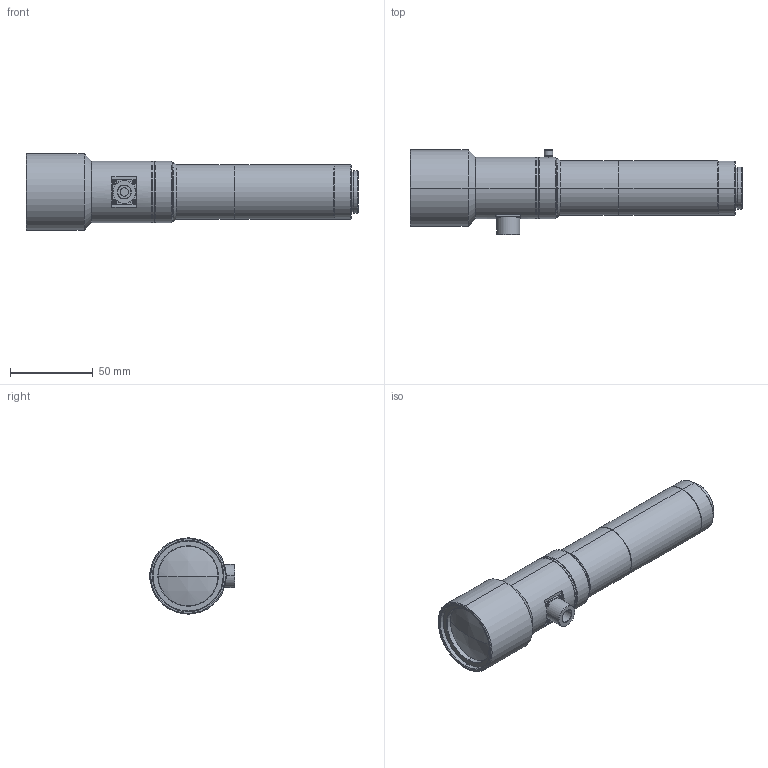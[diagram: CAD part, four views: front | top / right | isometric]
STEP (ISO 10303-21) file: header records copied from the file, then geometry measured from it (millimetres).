
FILE_DESCRIPTION (( 'STEP AP203' ), '1' );
FILE_NAME ('VS-THV3-110CO_S.STEP', '2020-06-16T04:28:14', ( '' ), ( '' ), 'SwSTEP 2.0', 'SolidWorks 2018', '' );
FILE_SCHEMA (( 'CONFIG_CONTROL_DESIGN' ));
Length unit declared in the file: millimetre
Products named in the file (1): VS-THV3-110CO_S
Bounding box: 200.27 x 51.3 x 46 mm (x, y, z)
Volume: 145988.3 mm3; surface area: 37906.5 mm2
Topology: 6 solids, 6 shells, 242 faces, 530 edges, 327 vertices
Faces by surface type: plane 96, cylinder 70, cone 66, torus 8, sphere 2
Entity records: 6717 total; most frequent: DIRECTION 1234, CARTESIAN_POINT 1132, ORIENTED_EDGE 1060, EDGE_CURVE 530, AXIS2_PLACEMENT_3D 463, VERTEX_POINT 327, VECTOR 308, LINE 308
